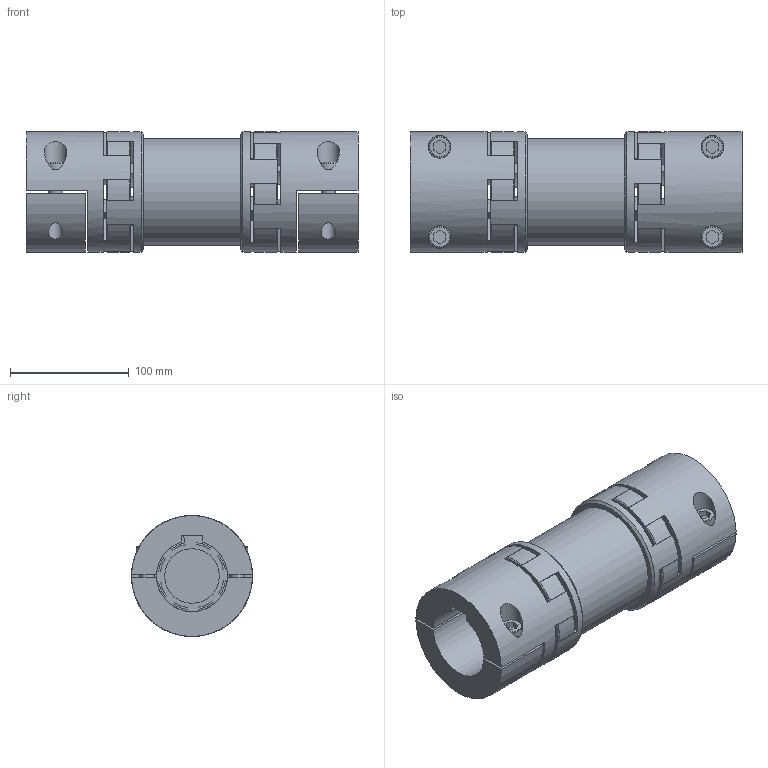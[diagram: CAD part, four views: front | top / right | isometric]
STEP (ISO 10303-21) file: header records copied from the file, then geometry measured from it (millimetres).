
FILE_DESCRIPTION(/* description */ ('STEP AP214'),/* implementation_level */ '2;1');
FILE_NAME(/* name */ 'C:\Diequa Files\DieQua Coupling\LE\STP\LE.450.L.AB.#.#.stp',/* time_stamp */ '2019-05-02T09:33:32-05:00',/* author */ ('DiequaCAD'),/* organization */ (''),/* preprocessor_version */ 'ST-DEVELOPER v18',/* originating_system */ 'Autodesk Inventor 2020',/* authorisation */ ' ');
FILE_SCHEMA (('AUTOMOTIVE_DESIGN { 1 0 10303 214 3 1 1 }'));
Length unit declared in the file: millimetre
Products named in the file (1): EZ2_450_60_PFN_60_PFN_13
Bounding box: 280 x 102 x 102 mm (x, y, z)
Volume: 1236914.2 mm3; surface area: 236133.2 mm2
Topology: 1 solids, 2 shells, 276 faces, 824 edges, 534 vertices
Faces by surface type: plane 156, cylinder 82, cone 34, torus 4
Full cylindrical faces by diameter (mm): 12 x8, 12.5 x4, 18 x4, 19 x4, 46 x2, 72 x1, 90 x1, 102 x4
Entity records: 12632 total; most frequent: CARTESIAN_POINT 4831, ORIENTED_EDGE 1648, DIRECTION 1622, EDGE_CURVE 824, LINE 556, VECTOR 556, VERTEX_POINT 534, AXIS2_PLACEMENT_3D 533
